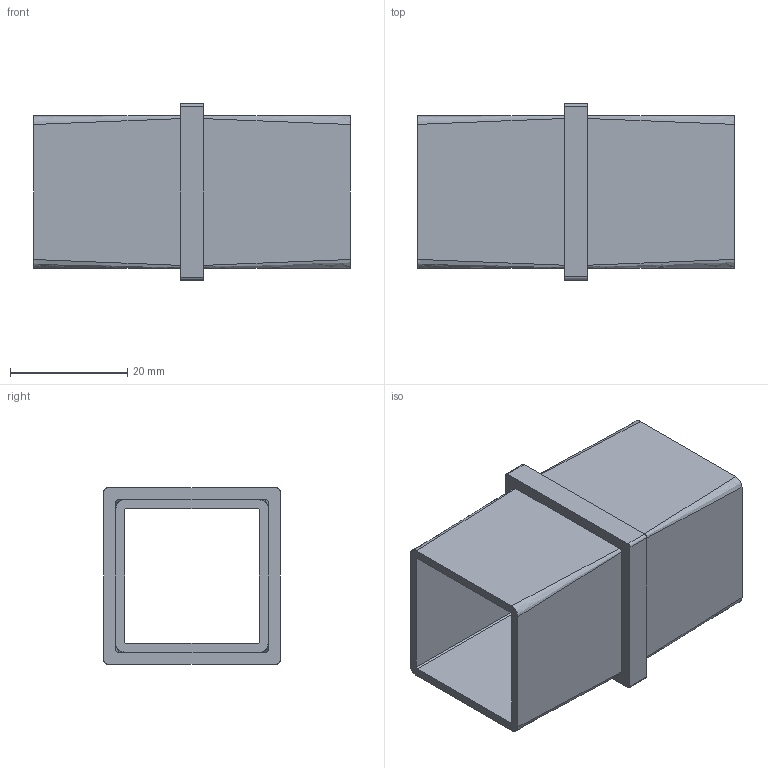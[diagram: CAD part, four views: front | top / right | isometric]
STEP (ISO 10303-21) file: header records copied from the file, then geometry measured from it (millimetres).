
FILE_DESCRIPTION (( 'STEP AP203' ), '1' );
FILE_NAME ('3D_GV1704_30x30x2_188714300.STEP', '2024-10-21T05:49:35', ( '' ), ( '' ), 'SwSTEP 2.0', 'SolidWorks 2024', '' );
FILE_SCHEMA (( 'CONFIG_CONTROL_DESIGN' ));
Length unit declared in the file: millimetre
Products named in the file (1): 3D_GV1704_30x30x2_188714300
Bounding box: 54 x 30 x 30 mm (x, y, z)
Volume: 8787.9 mm3; surface area: 11273.8 mm2
Topology: 1 solids, 1 shells, 36 faces, 96 edges, 64 vertices
Faces by surface type: plane 20, cylinder 8, bspline 8
Entity records: 1397 total; most frequent: CARTESIAN_POINT 509, ORIENTED_EDGE 192, DIRECTION 138, EDGE_CURVE 96, VERTEX_POINT 64, LINE 48, VECTOR 48, AXIS2_PLACEMENT_3D 45
